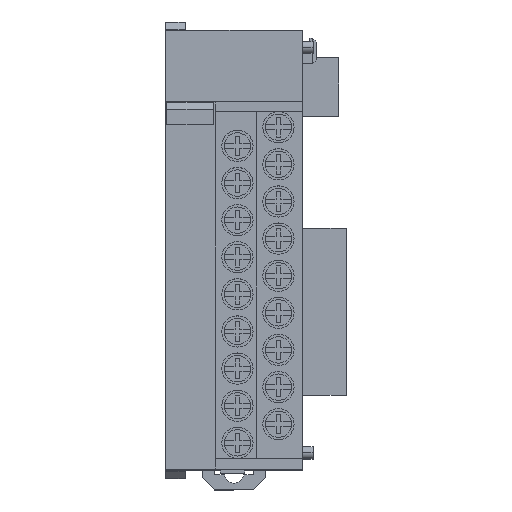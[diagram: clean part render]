
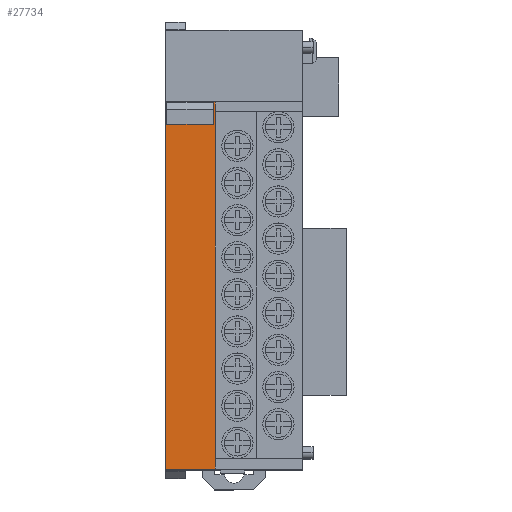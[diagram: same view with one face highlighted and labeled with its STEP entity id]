
A CAD part, top view. The second image highlights one B-rep face of the part: STEP entity #27734.
In plain terms, the highlighted planar face has unit normal (0, 0, 1).
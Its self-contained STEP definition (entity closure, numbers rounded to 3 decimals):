
#8381 = DIRECTION ( 'NONE',  ( -1., 0., 0. ) ) ;
#8383 = VECTOR ( 'NONE', #8381, 1000. ) ;
#8436 = CARTESIAN_POINT ( 'NONE',  ( -13.8, 30.3, 74.5 ) ) ;
#8438 = LINE ( 'NONE', #8436, #8383 ) ;
#8460 = CARTESIAN_POINT ( 'NONE',  ( -4.2, 30.3, 74.5 ) ) ;
#8508 = LINE ( 'NONE', #8625, #8623 ) ;
#8512 = CARTESIAN_POINT ( 'NONE',  ( -12.2, 28.3, 74.5 ) ) ;
#8522 = VECTOR ( 'NONE', #8629, 1000. ) ;
#8524 = CARTESIAN_POINT ( 'NONE',  ( -13.8, 26.5, 74.5 ) ) ;
#8525 = LINE ( 'NONE', #8524, #8522 ) ;
#8527 = DIRECTION ( 'NONE',  ( 1., 0., 0. ) ) ;
#8528 = VECTOR ( 'NONE', #8527, 1000. ) ;
#8530 = CARTESIAN_POINT ( 'NONE',  ( -4.2, 26.5, 74.5 ) ) ;
#8542 = CARTESIAN_POINT ( 'NONE',  ( -5.8, 28.3, 74.5 ) ) ;
#8544 = CARTESIAN_POINT ( 'NONE',  ( 13.9, -44.9, 74.5 ) ) ;
#8551 = CARTESIAN_POINT ( 'NONE',  ( 14., -44.9, 74.5 ) ) ;
#8552 = CARTESIAN_POINT ( 'NONE',  ( -3.8, 30.3, 74.5 ) ) ;
#8557 = DIRECTION ( 'NONE',  ( 0., 1., 0. ) ) ;
#8558 = VECTOR ( 'NONE', #8557, 1000. ) ;
#8560 = CARTESIAN_POINT ( 'NONE',  ( 13.9, 30.5, 74.5 ) ) ;
#8561 = LINE ( 'NONE', #8551, #8528 ) ;
#8564 = LINE ( 'NONE', #8560, #8558 ) ;
#8575 = DIRECTION ( 'NONE',  ( 0., -1., 0. ) ) ;
#8576 = CARTESIAN_POINT ( 'NONE',  ( -5.8, 28.3, 74.5 ) ) ;
#8589 = DIRECTION ( 'NONE',  ( 1., 0., 0. ) ) ;
#8591 = VECTOR ( 'NONE', #8589, 1000. ) ;
#8596 = LINE ( 'NONE', #8576, #8599 ) ;
#8597 = CARTESIAN_POINT ( 'NONE',  ( 14., -45., 74.5 ) ) ;
#8598 = LINE ( 'NONE', #8597, #8591 ) ;
#8599 = VECTOR ( 'NONE', #8575, 1000. ) ;
#8612 = CARTESIAN_POINT ( 'NONE',  ( -5.8, 26.5, 74.5 ) ) ;
#8622 = DIRECTION ( 'NONE',  ( 0., 1., 0. ) ) ;
#8623 = VECTOR ( 'NONE', #8622, 1000. ) ;
#8625 = CARTESIAN_POINT ( 'NONE',  ( -4.2, 30.3, 74.5 ) ) ;
#8629 = DIRECTION ( 'NONE',  ( 1., 0., 0. ) ) ;
#8668 = DIRECTION ( 'NONE',  ( 1., 0., 0. ) ) ;
#8669 = VECTOR ( 'NONE', #8668, 1000. ) ;
#8670 = CARTESIAN_POINT ( 'NONE',  ( -12.2, 28.3, 74.5 ) ) ;
#8671 = LINE ( 'NONE', #8670, #8669 ) ;
#8701 = CARTESIAN_POINT ( 'NONE',  ( -12.2, 26.5, 74.5 ) ) ;
#8712 = DIRECTION ( 'NONE',  ( 0., -1., 0. ) ) ;
#8713 = VECTOR ( 'NONE', #8712, 1000. ) ;
#8719 = CARTESIAN_POINT ( 'NONE',  ( 13.9, 30.3, 74.5 ) ) ;
#8720 = DIRECTION ( 'NONE',  ( 1., 0., 0. ) ) ;
#8722 = VECTOR ( 'NONE', #8720, 1000. ) ;
#8724 = CARTESIAN_POINT ( 'NONE',  ( -13.8, 26.5, 74.5 ) ) ;
#8725 = LINE ( 'NONE', #8724, #8722 ) ;
#8726 = LINE ( 'NONE', #8734, #8713 ) ;
#8734 = CARTESIAN_POINT ( 'NONE',  ( -12.2, 28.3, 74.5 ) ) ;
#8739 = LINE ( 'NONE', #8828, #8827 ) ;
#8826 = DIRECTION ( 'NONE',  ( -1., 0., 0. ) ) ;
#8827 = VECTOR ( 'NONE', #8826, 1000. ) ;
#8828 = CARTESIAN_POINT ( 'NONE',  ( 14., 30.3, 74.5 ) ) ;
#9597 = FACE_BOUND ( 'NONE', #27736, .T. ) ;
#9599 = AXIS2_PLACEMENT_3D ( 'NONE', #9658, #9615, #9657 ) ;
#9600 = PLANE ( 'NONE',  #9599 ) ;
#9601 = VECTOR ( 'NONE', #9614, 1000. ) ;
#9602 = CARTESIAN_POINT ( 'NONE',  ( -14., -45., 74.5 ) ) ;
#9603 = LINE ( 'NONE', #9602, #9601 ) ;
#9612 = CARTESIAN_POINT ( 'NONE',  ( -14., 30.5, 74.5 ) ) ;
#9613 = FACE_BOUND ( 'NONE', #10602, .T. ) ;
#9614 = DIRECTION ( 'NONE',  ( 0., -1., 0. ) ) ;
#9615 = DIRECTION ( 'NONE',  ( 0., 0., -1. ) ) ;
#9627 = FACE_OUTER_BOUND ( 'NONE', #27689, .T. ) ;
#9636 = DIRECTION ( 'NONE',  ( -1., 0., 0. ) ) ;
#9637 = VECTOR ( 'NONE', #9636, 1000. ) ;
#9638 = CARTESIAN_POINT ( 'NONE',  ( -14., 30.5, 74.5 ) ) ;
#9639 = LINE ( 'NONE', #9638, #9637 ) ;
#9657 = DIRECTION ( 'NONE',  ( -1., 0., 0. ) ) ;
#9658 = CARTESIAN_POINT ( 'NONE',  ( -14., 30.5, 74.5 ) ) ;
#9661 = CARTESIAN_POINT ( 'NONE',  ( -13.8, 26.5, 74.5 ) ) ;
#9666 = CARTESIAN_POINT ( 'NONE',  ( -14., -45., 74.5 ) ) ;
#9688 = DIRECTION ( 'NONE',  ( 0., -1., 0. ) ) ;
#9689 = VECTOR ( 'NONE', #9688, 1000. ) ;
#9690 = CARTESIAN_POINT ( 'NONE',  ( -13.8, 30.3, 74.5 ) ) ;
#9692 = LINE ( 'NONE', #9690, #9689 ) ;
#9693 = CARTESIAN_POINT ( 'NONE',  ( -13.8, 30.3, 74.5 ) ) ;
#10369 = EDGE_CURVE ( 'NONE', #10587, #27762, #8438, .T. ) ;
#10452 = ORIENTED_EDGE ( 'NONE', *, *, #10582, .F. ) ;
#10567 = EDGE_CURVE ( 'NONE', #10573, #10886, #8564, .T. ) ;
#10573 = VERTEX_POINT ( 'NONE', #8544 ) ;
#10582 = EDGE_CURVE ( 'NONE', #12180, #10573, #8561, .T. ) ;
#10584 = ORIENTED_EDGE ( 'NONE', *, *, #10610, .F. ) ;
#10585 = ORIENTED_EDGE ( 'NONE', *, *, #10890, .F. ) ;
#10587 = VERTEX_POINT ( 'NONE', #8460 ) ;
#10588 = VERTEX_POINT ( 'NONE', #8552 ) ;
#10591 = ORIENTED_EDGE ( 'NONE', *, *, #10593, .F. ) ;
#10592 = EDGE_CURVE ( 'NONE', #10600, #10603, #8525, .T. ) ;
#10593 = EDGE_CURVE ( 'NONE', #10603, #10587, #8508, .T. ) ;
#10595 = ORIENTED_EDGE ( 'NONE', *, *, #27758, .F. ) ;
#10597 = VERTEX_POINT ( 'NONE', #8542 ) ;
#10599 = VERTEX_POINT ( 'NONE', #8512 ) ;
#10600 = VERTEX_POINT ( 'NONE', #8612 ) ;
#10602 = EDGE_LOOP ( 'NONE', ( #10585, #10882, #10452, #10604 ) ) ;
#10603 = VERTEX_POINT ( 'NONE', #8530 ) ;
#10604 = ORIENTED_EDGE ( 'NONE', *, *, #11873, .F. ) ;
#10605 = EDGE_CURVE ( 'NONE', #27744, #19816, #8598, .T. ) ;
#10608 = ORIENTED_EDGE ( 'NONE', *, *, #10636, .F. ) ;
#10609 = ORIENTED_EDGE ( 'NONE', *, *, #10592, .F. ) ;
#10610 = EDGE_CURVE ( 'NONE', #10597, #10600, #8596, .T. ) ;
#10611 = ORIENTED_EDGE ( 'NONE', *, *, #10876, .F. ) ;
#10627 = ORIENTED_EDGE ( 'NONE', *, *, #10881, .T. ) ;
#10636 = EDGE_CURVE ( 'NONE', #10599, #10597, #8671, .T. ) ;
#10876 = EDGE_CURVE ( 'NONE', #27740, #10887, #8725, .T. ) ;
#10881 = EDGE_CURVE ( 'NONE', #10599, #10887, #8726, .T. ) ;
#10882 = ORIENTED_EDGE ( 'NONE', *, *, #10567, .F. ) ;
#10886 = VERTEX_POINT ( 'NONE', #8719 ) ;
#10887 = VERTEX_POINT ( 'NONE', #8701 ) ;
#10890 = EDGE_CURVE ( 'NONE', #10886, #10588, #8739, .T. ) ;
#11873 = EDGE_CURVE ( 'NONE', #10588, #12180, #17094, .T. ) ;
#12180 = VERTEX_POINT ( 'NONE', #17124 ) ;
#17089 = DIRECTION ( 'NONE',  ( 0., -1., 0. ) ) ;
#17090 = VECTOR ( 'NONE', #17089, 1000. ) ;
#17091 = CARTESIAN_POINT ( 'NONE',  ( -3.8, -44.9, 74.5 ) ) ;
#17094 = LINE ( 'NONE', #17091, #17090 ) ;
#17124 = CARTESIAN_POINT ( 'NONE',  ( -3.8, -44.9, 74.5 ) ) ;
#19796 = VERTEX_POINT ( 'NONE', #23888 ) ;
#19804 = EDGE_CURVE ( 'NONE', #19816, #19796, #23884, .T. ) ;
#19816 = VERTEX_POINT ( 'NONE', #23920 ) ;
#23882 = CARTESIAN_POINT ( 'NONE',  ( 14., -45., 74.5 ) ) ;
#23884 = LINE ( 'NONE', #23882, #23931 ) ;
#23888 = CARTESIAN_POINT ( 'NONE',  ( 14., 30.5, 74.5 ) ) ;
#23920 = CARTESIAN_POINT ( 'NONE',  ( 14., -45., 74.5 ) ) ;
#23930 = DIRECTION ( 'NONE',  ( 0., 1., 0. ) ) ;
#23931 = VECTOR ( 'NONE', #23930, 1000. ) ;
#27689 = EDGE_LOOP ( 'NONE', ( #27729, #27733, #27739, #27737 ) ) ;
#27729 = ORIENTED_EDGE ( 'NONE', *, *, #27752, .T. ) ;
#27730 = EDGE_CURVE ( 'NONE', #27732, #27744, #9603, .T. ) ;
#27732 = VERTEX_POINT ( 'NONE', #9612 ) ;
#27733 = ORIENTED_EDGE ( 'NONE', *, *, #27730, .T. ) ;
#27734 = ADVANCED_FACE ( 'NONE', ( #9627, #9597, #9613 ), #9600, .F. ) ;
#27736 = EDGE_LOOP ( 'NONE', ( #10595, #27761, #10591, #10609, #10584, #10608, #10627, #10611 ) ) ;
#27737 = ORIENTED_EDGE ( 'NONE', *, *, #19804, .T. ) ;
#27739 = ORIENTED_EDGE ( 'NONE', *, *, #10605, .T. ) ;
#27740 = VERTEX_POINT ( 'NONE', #9661 ) ;
#27744 = VERTEX_POINT ( 'NONE', #9666 ) ;
#27752 = EDGE_CURVE ( 'NONE', #19796, #27732, #9639, .T. ) ;
#27758 = EDGE_CURVE ( 'NONE', #27762, #27740, #9692, .T. ) ;
#27761 = ORIENTED_EDGE ( 'NONE', *, *, #10369, .F. ) ;
#27762 = VERTEX_POINT ( 'NONE', #9693 ) ;
